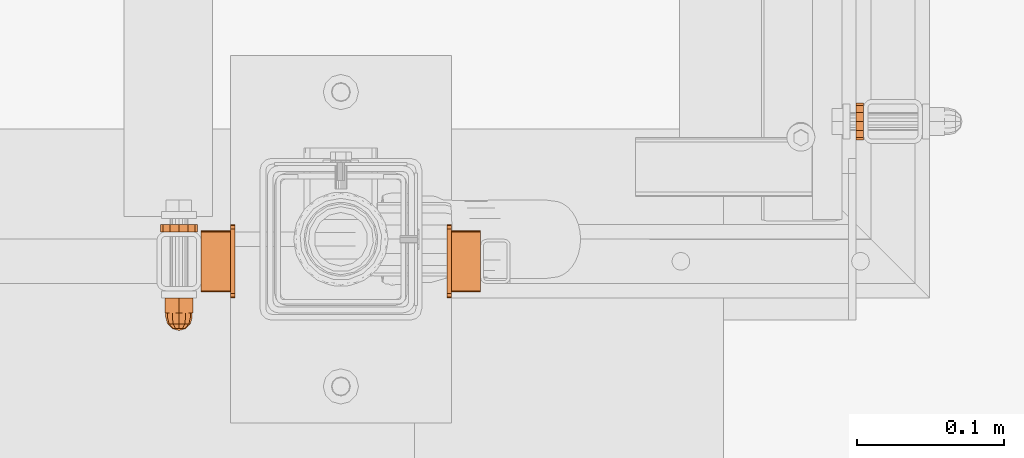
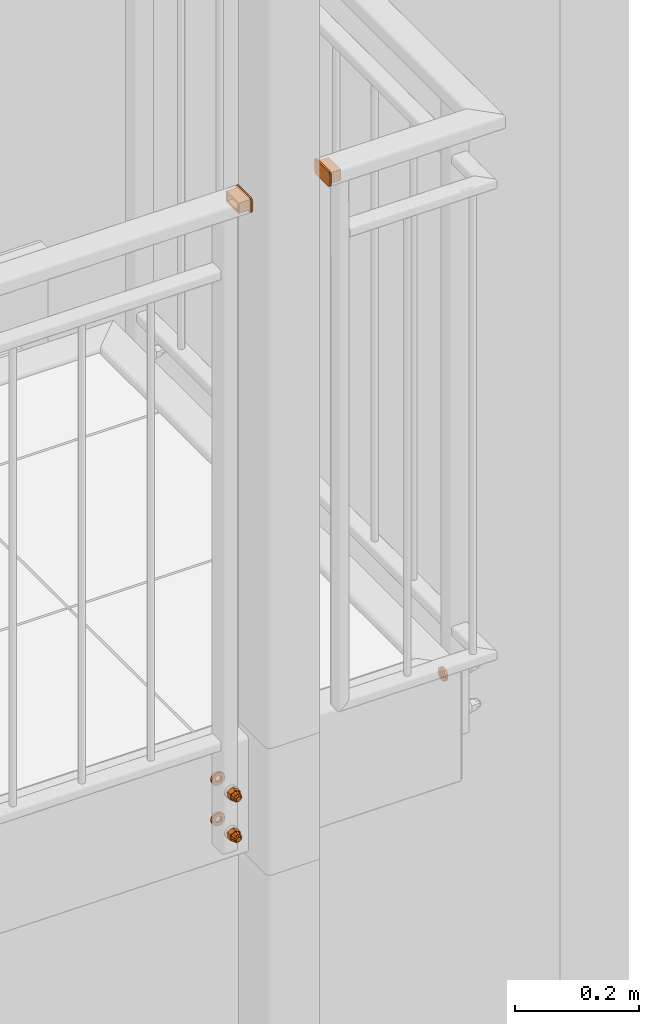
# One storey, part 128 of 162: 7 proxies.
"""IFC2X3 building model written with IfcOpenShell, lengths in millimetres."""

from ifc_helpers import new_model, entity, si_unit, converted_unit, origin_with_axes, place, context, project, spatial, faceted_brep, material, element, save


model = new_model("IFC2X3")

# Units and contexts
model_context = context("Model", 3, precision=1e-09, world=origin_with_axes())
ifc_project = project(units=[si_unit("LENGTHUNIT", "METRE", prefix="MILLI"), si_unit("AREAUNIT", "SQUARE_METRE"), si_unit("VOLUMEUNIT", "CUBIC_METRE"), converted_unit("PLANEANGLEUNIT", "DEGREE", entity("IfcPlaneAngleMeasure", 0.01745329), si_unit("PLANEANGLEUNIT", "RADIAN"), dimensions=[0, 0, 0, 0, 0, 0, 0])], contexts=[model_context])

# Site, building, storey
site_placement = place(None, origin_with_axes())
site = spatial("IfcSite", under=ifc_project, at=site_placement, Name="Hermannstra?e 1a, 60318 Frankfurt", CompositionType="ELEMENT")
building_placement = place(site_placement, origin_with_axes())
building = spatial("IfcBuilding", under=site, at=building_placement, Name="Struktur 1", CompositionType="ELEMENT")
storey_placement = place(building_placement, origin_with_axes())
storey = spatial("IfcBuildingStorey", under=building, at=storey_placement, Name="Default Storey", CompositionType="ELEMENT", Elevation=0.0)

# Proxies
ifc_material = material(Name="Kein")
proxy_1_placement = place(None, origin_with_axes())
element("IfcBuildingElementProxy", 1, at=proxy_1_placement, inside=storey, material=ifc_material, ObjectType="-", context=model_context, shape_type="Brep", body=[
    faceted_brep([(5378.30936482, 1494.609373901, 16330.999), (5378.30936482, 1494.609373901, 16312.999), (5398.30936482, 1494.609373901, 16312.999), (5398.30936482, 1494.609373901, 16330.999), (5398.30936482, 1494.877323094, 16331.999), (5378.30936482, 1494.877323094, 16331.999), (5378.30936482, 1495.609373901, 16332.731050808), (5398.30936482, 1495.609373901, 16332.731050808), (5398.30936482, 1496.609373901, 16332.999), (5378.30936482, 1496.609373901, 16332.999), (5378.30936482, 1494.877323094, 16311.999), (5398.30936482, 1494.877323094, 16311.999), (5378.30936482, 1495.609373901, 16311.266949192), (5398.30936482, 1495.609373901, 16311.266949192), (5378.30936482, 1534.609373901, 16332.999), (5378.30936482, 1535.609373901, 16332.731050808), (5378.30936482, 1536.341424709, 16331.999), (5378.30936482, 1536.609373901, 16330.999), (5378.30936482, 1536.609373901, 16312.999), (5378.30936482, 1536.341424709, 16311.999), (5378.30936482, 1535.609373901, 16311.266949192), (5378.30936482, 1534.609373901, 16310.999), (5378.30936482, 1496.609373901, 16310.999), (5378.30936482, 1498.609373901, 16328.999), (5378.30936482, 1498.609373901, 16314.999), (5378.30936482, 1532.609373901, 16314.999), (5378.30936482, 1532.609373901, 16328.999), (5398.30936482, 1496.609373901, 16310.999), (5398.30936482, 1534.609373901, 16310.999), (5398.30936482, 1535.609373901, 16311.266949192), (5398.30936482, 1536.341424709, 16311.999), (5398.30936482, 1536.609373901, 16312.999), (5398.30936482, 1536.609373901, 16330.999), (5398.30936482, 1536.341424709, 16331.999), (5398.30936482, 1535.609373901, 16332.731050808), (5398.30936482, 1534.609373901, 16332.999), (5398.30936482, 1498.609373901, 16328.999), (5398.30936482, 1498.609373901, 16314.999), (5398.30936482, 1532.609373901, 16314.999), (5398.30936482, 1532.609373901, 16328.999)], [[[0, 1, 2, 3]], [[0, 3, 4, 5]], [[6, 7, 8, 9]], [[5, 4, 7, 6]], [[2, 1, 10, 11]], [[11, 10, 12, 13]], [[5, 6, 9, 14, 15, 16, 17, 18, 19, 20, 21, 22, 12, 10, 1, 0], [23, 24, 25, 26]], [[3, 2, 11, 13, 27, 28, 29, 30, 31, 32, 33, 34, 35, 8, 7, 4]], [[34, 15, 14, 35]], [[14, 9, 8, 35]], [[36, 37, 24, 23]], [[15, 34, 33, 16]], [[13, 12, 22, 27]], [[25, 24, 37, 38]], [[22, 21, 28, 27]], [[28, 21, 20, 29]], [[39, 36, 23, 26]], [[16, 33, 32, 17]], [[29, 20, 19, 30]], [[26, 25, 38, 39]], [[18, 17, 32, 31]], [[30, 19, 18, 31]]]),
    faceted_brep([(5398.30936482, 1496.609373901, 16306.999), (5401.30936482, 1496.609373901, 16306.999), (5401.30936482, 1493.609373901, 16307.802847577), (5398.30936482, 1493.609373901, 16307.802847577), (5401.30936482, 1491.413221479, 16309.999), (5398.30936482, 1491.413221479, 16309.999), (5401.30936482, 1534.609373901, 16306.999), (5398.30936482, 1534.609373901, 16306.999), (5398.30936482, 1537.609373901, 16307.802847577), (5401.30936482, 1537.609373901, 16307.802847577), (5398.30936482, 1539.805526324, 16309.999), (5401.30936482, 1539.805526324, 16309.999), (5398.30936482, 1490.609373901, 16312.999), (5398.30936482, 1490.609373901, 16330.999), (5398.30936482, 1491.413221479, 16333.999), (5398.30936482, 1493.609373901, 16336.195152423), (5398.30936482, 1496.609373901, 16336.999), (5398.30936482, 1534.609373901, 16336.999), (5398.30936482, 1537.609373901, 16336.195152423), (5398.30936482, 1539.805526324, 16333.999), (5398.30936482, 1540.609373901, 16330.999), (5398.30936482, 1540.609373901, 16312.999), (5401.30936482, 1540.609373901, 16312.999), (5401.30936482, 1540.609373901, 16330.999), (5401.30936482, 1539.805526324, 16333.999), (5401.30936482, 1537.609373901, 16336.195152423), (5401.30936482, 1534.609373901, 16336.999), (5401.30936482, 1496.609373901, 16336.999), (5401.30936482, 1493.609373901, 16336.195152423), (5401.30936482, 1491.413221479, 16333.999), (5401.30936482, 1490.609373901, 16330.999), (5401.30936482, 1490.609373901, 16312.999)], [[[0, 1, 2, 3]], [[3, 2, 4, 5]], [[6, 7, 8, 9]], [[9, 8, 10, 11]], [[5, 12, 13, 14, 15, 16, 17, 18, 19, 20, 21, 10, 8, 7, 0, 3]], [[6, 1, 0, 7]], [[11, 22, 23, 24, 25, 26, 27, 28, 29, 30, 31, 4, 2, 1, 6, 9]], [[5, 4, 31, 12]], [[13, 12, 31, 30]], [[11, 10, 21, 22]], [[28, 15, 14, 29]], [[29, 14, 13, 30]], [[15, 28, 27, 16]], [[23, 22, 21, 20]], [[17, 16, 27, 26]], [[23, 20, 19, 24]], [[25, 18, 17, 26]], [[24, 19, 18, 25]]]),
])
proxy_2_placement = place(None, origin_with_axes())
element("IfcBuildingElementProxy", 2, at=proxy_2_placement, inside=storey, material=ifc_material, ObjectType="-", context=model_context, shape_type="Brep", body=[
    faceted_brep([(5568.30936482, 1494.609373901, 16312.999), (5568.30936482, 1494.609373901, 16330.999), (5548.30936482, 1494.609373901, 16330.999), (5548.30936482, 1494.609373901, 16312.999), (5568.30936482, 1494.877323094, 16331.999), (5548.30936482, 1494.877323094, 16331.999), (5548.30936482, 1495.609373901, 16332.731050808), (5568.30936482, 1495.609373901, 16332.731050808), (5568.30936482, 1496.609373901, 16332.999), (5548.30936482, 1496.609373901, 16332.999), (5548.30936482, 1494.877323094, 16311.999), (5568.30936482, 1494.877323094, 16311.999), (5548.30936482, 1495.609373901, 16311.266949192), (5568.30936482, 1495.609373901, 16311.266949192), (5568.30936482, 1496.609373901, 16310.999), (5568.30936482, 1534.609373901, 16310.999), (5568.30936482, 1535.609373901, 16311.266949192), (5568.30936482, 1536.341424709, 16311.999), (5568.30936482, 1536.609373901, 16312.999), (5568.30936482, 1536.609373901, 16330.999), (5568.30936482, 1536.341424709, 16331.999), (5568.30936482, 1535.609373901, 16332.731050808), (5568.30936482, 1534.609373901, 16332.999), (5568.30936482, 1498.609373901, 16328.999), (5568.30936482, 1532.609373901, 16328.999), (5568.30936482, 1532.609373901, 16314.999), (5568.30936482, 1498.609373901, 16314.999), (5548.30936482, 1534.609373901, 16332.999), (5548.30936482, 1535.609373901, 16332.731050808), (5548.30936482, 1536.341424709, 16331.999), (5548.30936482, 1536.609373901, 16330.999), (5548.30936482, 1536.609373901, 16312.999), (5548.30936482, 1536.341424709, 16311.999), (5548.30936482, 1535.609373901, 16311.266949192), (5548.30936482, 1534.609373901, 16310.999), (5548.30936482, 1496.609373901, 16310.999), (5548.30936482, 1498.609373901, 16328.999), (5548.30936482, 1498.609373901, 16314.999), (5548.30936482, 1532.609373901, 16314.999), (5548.30936482, 1532.609373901, 16328.999)], [[[0, 1, 2, 3]], [[2, 1, 4, 5]], [[6, 7, 8, 9]], [[5, 4, 7, 6]], [[0, 3, 10, 11]], [[11, 10, 12, 13]], [[7, 4, 1, 0, 11, 13, 14, 15, 16, 17, 18, 19, 20, 21, 22, 8], [23, 24, 25, 26]], [[3, 2, 5, 6, 9, 27, 28, 29, 30, 31, 32, 33, 34, 35, 12, 10], [36, 37, 38, 39]], [[21, 28, 27, 22]], [[8, 22, 27, 9]], [[37, 36, 23, 26]], [[28, 21, 20, 29]], [[13, 12, 35, 14]], [[26, 25, 38, 37]], [[15, 14, 35, 34]], [[15, 34, 33, 16]], [[36, 39, 24, 23]], [[29, 20, 19, 30]], [[16, 33, 32, 17]], [[25, 24, 39, 38]], [[19, 18, 31, 30]], [[17, 32, 31, 18]]]),
    faceted_brep([(5545.30936482, 1496.609373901, 16306.999), (5548.30936482, 1496.609373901, 16306.999), (5548.30936482, 1493.609373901, 16307.802847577), (5545.30936482, 1493.609373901, 16307.802847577), (5548.30936482, 1491.413221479, 16309.999), (5545.30936482, 1491.413221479, 16309.999), (5548.30936482, 1534.609373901, 16306.999), (5545.30936482, 1534.609373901, 16306.999), (5545.30936482, 1537.609373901, 16307.802847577), (5548.30936482, 1537.609373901, 16307.802847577), (5545.30936482, 1539.805526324, 16309.999), (5548.30936482, 1539.805526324, 16309.999), (5548.30936482, 1490.609373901, 16312.999), (5548.30936482, 1540.609373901, 16312.999), (5548.30936482, 1540.609373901, 16330.999), (5548.30936482, 1539.805526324, 16333.999), (5548.30936482, 1537.609373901, 16336.195152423), (5548.30936482, 1534.609373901, 16336.999), (5548.30936482, 1496.609373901, 16336.999), (5548.30936482, 1493.609373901, 16336.195152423), (5548.30936482, 1491.413221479, 16333.999), (5548.30936482, 1490.609373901, 16330.999), (5545.30936482, 1540.609373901, 16312.999), (5545.30936482, 1490.609373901, 16312.999), (5545.30936482, 1490.609373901, 16330.999), (5545.30936482, 1491.413221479, 16333.999), (5545.30936482, 1493.609373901, 16336.195152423), (5545.30936482, 1496.609373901, 16336.999), (5545.30936482, 1534.609373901, 16336.999), (5545.30936482, 1537.609373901, 16336.195152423), (5545.30936482, 1539.805526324, 16333.999), (5545.30936482, 1540.609373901, 16330.999)], [[[0, 1, 2, 3]], [[3, 2, 4, 5]], [[6, 7, 8, 9]], [[9, 8, 10, 11]], [[12, 4, 2, 1, 6, 9, 11, 13, 14, 15, 16, 17, 18, 19, 20, 21]], [[0, 7, 6, 1]], [[22, 10, 8, 7, 0, 3, 5, 23, 24, 25, 26, 27, 28, 29, 30, 31]], [[5, 4, 12, 23]], [[12, 21, 24, 23]], [[11, 10, 22, 13]], [[19, 26, 25, 20]], [[20, 25, 24, 21]], [[26, 19, 18, 27]], [[22, 31, 14, 13]], [[18, 17, 28, 27]], [[14, 31, 30, 15]], [[16, 29, 28, 17]], [[15, 30, 29, 16]]]),
])
proxy_3_placement = place(None, origin_with_axes())
element("IfcBuildingElementProxy", 3, at=proxy_3_placement, inside=storey, material=ifc_material, ObjectType="-", context=model_context, shape_type="Brep", body=[
    faceted_brep([(5352.484047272, 1535.609373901, 15090.749), (5357.05936482, 1535.609373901, 15086.173682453), (5363.30936482, 1535.609373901, 15084.499), (5369.55936482, 1535.609373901, 15086.173682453), (5374.134682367, 1535.609373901, 15090.749), (5375.80936482, 1535.609373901, 15096.999), (5374.134682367, 1535.609373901, 15103.249), (5369.55936482, 1535.609373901, 15107.824317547), (5363.30936482, 1535.609373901, 15109.499), (5357.05936482, 1535.609373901, 15107.824317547), (5352.484047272, 1535.609373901, 15103.249), (5350.80936482, 1535.609373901, 15096.999), (5363.30936482, 1535.609373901, 15090.999), (5360.30936482, 1535.609373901, 15091.802847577), (5358.113212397, 1535.609373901, 15093.999), (5357.30936482, 1535.609373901, 15096.999), (5358.113212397, 1535.609373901, 15099.999), (5360.30936482, 1535.609373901, 15102.195152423), (5363.30936482, 1535.609373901, 15102.999), (5366.30936482, 1535.609373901, 15102.195152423), (5368.505517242, 1535.609373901, 15099.999), (5369.30936482, 1535.609373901, 15096.999), (5368.505517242, 1535.609373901, 15093.999), (5366.30936482, 1535.609373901, 15091.802847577), (5352.484047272, 1540.609373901, 15090.749), (5357.05936482, 1540.609373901, 15086.173682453), (5350.80936482, 1540.609373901, 15096.999), (5352.484047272, 1540.609373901, 15103.249), (5357.05936482, 1540.609373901, 15107.824317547), (5363.30936482, 1540.609373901, 15109.499), (5369.55936482, 1540.609373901, 15107.824317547), (5374.134682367, 1540.609373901, 15103.249), (5375.80936482, 1540.609373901, 15096.999), (5374.134682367, 1540.609373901, 15090.749), (5369.55936482, 1540.609373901, 15086.173682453), (5363.30936482, 1540.609373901, 15084.499), (5358.113212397, 1540.609373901, 15099.999), (5357.30936482, 1540.609373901, 15096.999), (5358.113212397, 1540.609373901, 15093.999), (5360.30936482, 1540.609373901, 15091.802847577), (5363.30936482, 1540.609373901, 15090.999), (5366.30936482, 1540.609373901, 15091.802847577), (5368.505517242, 1540.609373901, 15093.999), (5369.30936482, 1540.609373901, 15096.999), (5368.505517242, 1540.609373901, 15099.999), (5366.30936482, 1540.609373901, 15102.195152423), (5363.30936482, 1540.609373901, 15102.999), (5360.30936482, 1540.609373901, 15102.195152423)], [[[0, 1, 2, 3, 4, 5, 6, 7, 8, 9, 10, 11], [12, 13, 14, 15, 16, 17, 18, 19, 20, 21, 22, 23]], [[0, 24, 25, 1]], [[24, 26, 27, 28, 29, 30, 31, 32, 33, 34, 35, 25], [36, 37, 38, 39, 40, 41, 42, 43, 44, 45, 46, 47]], [[38, 14, 13, 39]], [[24, 0, 11, 26]], [[14, 38, 37, 15]], [[39, 13, 12, 40]], [[1, 25, 35, 2]], [[26, 11, 10, 27]], [[15, 37, 36, 16]], [[40, 12, 23, 41]], [[2, 35, 34, 3]], [[27, 10, 9, 28]], [[16, 36, 47, 17]], [[22, 42, 41, 23]], [[3, 34, 33, 4]], [[42, 22, 21, 43]], [[28, 9, 8, 29]], [[17, 47, 46, 18]], [[20, 44, 43, 21]], [[4, 33, 32, 5]], [[45, 19, 18, 46]], [[44, 20, 19, 45]], [[29, 8, 7, 30]], [[5, 32, 31, 6]], [[30, 7, 6, 31]]]),
])
proxy_4_placement = place(None, origin_with_axes())
element("IfcBuildingElementProxy", 4, at=proxy_4_placement, inside=storey, material=ifc_material, ObjectType="-", context=model_context, shape_type="Brep", body=[
    faceted_brep([(5352.484047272, 1535.609373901, 15170.749), (5357.05936482, 1535.609373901, 15166.173682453), (5363.30936482, 1535.609373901, 15164.499), (5369.55936482, 1535.609373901, 15166.173682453), (5374.134682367, 1535.609373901, 15170.749), (5375.80936482, 1535.609373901, 15176.999), (5374.134682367, 1535.609373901, 15183.249), (5369.55936482, 1535.609373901, 15187.824317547), (5363.30936482, 1535.609373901, 15189.499), (5357.05936482, 1535.609373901, 15187.824317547), (5352.484047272, 1535.609373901, 15183.249), (5350.80936482, 1535.609373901, 15176.999), (5363.30936482, 1535.609373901, 15170.999), (5360.30936482, 1535.609373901, 15171.802847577), (5358.113212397, 1535.609373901, 15173.999), (5357.30936482, 1535.609373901, 15176.999), (5358.113212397, 1535.609373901, 15179.999), (5360.30936482, 1535.609373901, 15182.195152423), (5363.30936482, 1535.609373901, 15182.999), (5366.30936482, 1535.609373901, 15182.195152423), (5368.505517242, 1535.609373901, 15179.999), (5369.30936482, 1535.609373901, 15176.999), (5368.505517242, 1535.609373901, 15173.999), (5366.30936482, 1535.609373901, 15171.802847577), (5352.484047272, 1540.609373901, 15170.749), (5357.05936482, 1540.609373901, 15166.173682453), (5350.80936482, 1540.609373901, 15176.999), (5352.484047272, 1540.609373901, 15183.249), (5357.05936482, 1540.609373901, 15187.824317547), (5363.30936482, 1540.609373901, 15189.499), (5369.55936482, 1540.609373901, 15187.824317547), (5374.134682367, 1540.609373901, 15183.249), (5375.80936482, 1540.609373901, 15176.999), (5374.134682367, 1540.609373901, 15170.749), (5369.55936482, 1540.609373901, 15166.173682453), (5363.30936482, 1540.609373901, 15164.499), (5358.113212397, 1540.609373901, 15179.999), (5357.30936482, 1540.609373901, 15176.999), (5358.113212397, 1540.609373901, 15173.999), (5360.30936482, 1540.609373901, 15171.802847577), (5363.30936482, 1540.609373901, 15170.999), (5366.30936482, 1540.609373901, 15171.802847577), (5368.505517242, 1540.609373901, 15173.999), (5369.30936482, 1540.609373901, 15176.999), (5368.505517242, 1540.609373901, 15179.999), (5366.30936482, 1540.609373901, 15182.195152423), (5363.30936482, 1540.609373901, 15182.999), (5360.30936482, 1540.609373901, 15182.195152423)], [[[0, 1, 2, 3, 4, 5, 6, 7, 8, 9, 10, 11], [12, 13, 14, 15, 16, 17, 18, 19, 20, 21, 22, 23]], [[0, 24, 25, 1]], [[24, 26, 27, 28, 29, 30, 31, 32, 33, 34, 35, 25], [36, 37, 38, 39, 40, 41, 42, 43, 44, 45, 46, 47]], [[38, 14, 13, 39]], [[24, 0, 11, 26]], [[14, 38, 37, 15]], [[39, 13, 12, 40]], [[1, 25, 35, 2]], [[26, 11, 10, 27]], [[15, 37, 36, 16]], [[40, 12, 23, 41]], [[2, 35, 34, 3]], [[27, 10, 9, 28]], [[16, 36, 47, 17]], [[22, 42, 41, 23]], [[3, 34, 33, 4]], [[42, 22, 21, 43]], [[28, 9, 8, 29]], [[17, 47, 46, 18]], [[20, 44, 43, 21]], [[4, 33, 32, 5]], [[45, 19, 18, 46]], [[44, 20, 19, 45]], [[29, 8, 7, 30]], [[5, 32, 31, 6]], [[30, 7, 6, 31]]]),
])
proxy_5_placement = place(None, origin_with_axes())
element("IfcBuildingElementProxy", 5, at=proxy_5_placement, inside=storey, material=ifc_material, ObjectType="-", context=model_context, shape_type="Brep", body=[
    faceted_brep([(5357.30936482, 1490.609373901, 15176.999), (5357.30936482, 1480.609373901, 15176.999), (5358.113212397, 1480.609373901, 15173.999), (5358.113212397, 1490.609373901, 15173.999), (5360.30936482, 1480.609373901, 15171.802847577), (5360.30936482, 1490.609373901, 15171.802847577), (5358.113212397, 1490.609373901, 15179.999), (5358.113212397, 1480.609373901, 15179.999), (5353.829495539, 1490.609373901, 15182.472205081), (5363.30936482, 1490.609373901, 15187.945410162), (5372.7892341, 1490.609373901, 15182.472205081), (5372.7892341, 1490.609373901, 15171.525794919), (5363.30936482, 1490.609373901, 15166.052589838), (5353.829495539, 1490.609373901, 15171.525794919), (5360.30936482, 1490.609373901, 15182.195152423), (5363.30936482, 1490.609373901, 15170.999), (5366.30936482, 1490.609373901, 15171.802847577), (5368.505517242, 1490.609373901, 15173.999), (5369.30936482, 1490.609373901, 15176.999), (5368.505517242, 1490.609373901, 15179.999), (5366.30936482, 1490.609373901, 15182.195152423), (5363.30936482, 1490.609373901, 15182.999), (5363.30936482, 1480.609373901, 15187.945410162), (5353.829495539, 1480.609373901, 15182.472205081), (5353.829495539, 1480.609373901, 15171.525794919), (5363.30936482, 1480.609373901, 15166.052589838), (5372.7892341, 1480.609373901, 15171.525794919), (5372.7892341, 1480.609373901, 15182.472205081), (5360.30936482, 1480.609373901, 15182.195152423), (5363.30936482, 1480.609373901, 15182.999), (5366.30936482, 1480.609373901, 15182.195152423), (5368.505517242, 1480.609373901, 15179.999), (5369.30936482, 1480.609373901, 15176.999), (5368.505517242, 1480.609373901, 15173.999), (5366.30936482, 1480.609373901, 15171.802847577), (5363.30936482, 1480.609373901, 15170.999)], [[[0, 1, 2, 3]], [[3, 2, 4, 5]], [[1, 0, 6, 7]], [[8, 9, 10, 11, 12, 13], [14, 6, 0, 3, 5, 15, 16, 17, 18, 19, 20, 21]], [[22, 23, 24, 25, 26, 27], [1, 7, 28, 29, 30, 31, 32, 33, 34, 35, 4, 2]], [[7, 6, 14, 28]], [[24, 23, 8, 13]], [[5, 4, 35, 15]], [[13, 12, 25, 24]], [[28, 14, 21, 29]], [[23, 22, 9, 8]], [[15, 35, 34, 16]], [[12, 11, 26, 25]], [[29, 21, 20, 30]], [[22, 27, 10, 9]], [[16, 34, 33, 17]], [[27, 26, 11, 10]], [[30, 20, 19, 31]], [[17, 33, 32, 18]], [[31, 19, 18, 32]]]),
    faceted_brep([(5363.30936482, 1480.609373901, 15185.999), (5363.30936482, 1477.609373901, 15185.999), (5367.80936482, 1477.609373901, 15184.793228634), (5367.80936482, 1480.609373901, 15184.793228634), (5358.80936482, 1480.609373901, 15184.793228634), (5358.80936482, 1477.609373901, 15184.793228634), (5355.515136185, 1477.609373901, 15172.499), (5358.80936482, 1477.609373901, 15169.204771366), (5363.30936482, 1477.609373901, 15167.999), (5367.80936482, 1477.609373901, 15169.204771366), (5371.103593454, 1477.609373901, 15172.499), (5372.30936482, 1477.609373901, 15176.999), (5371.103593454, 1477.609373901, 15181.499), (5355.515136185, 1477.609373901, 15181.499), (5354.30936482, 1477.609373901, 15176.999), (5371.103593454, 1480.609373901, 15172.499), (5367.80936482, 1480.609373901, 15169.204771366), (5363.30936482, 1480.609373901, 15167.999), (5358.80936482, 1480.609373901, 15169.204771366), (5355.515136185, 1480.609373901, 15172.499), (5354.30936482, 1480.609373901, 15176.999), (5355.515136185, 1480.609373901, 15181.499), (5371.103593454, 1480.609373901, 15181.499), (5372.30936482, 1480.609373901, 15176.999)], [[[0, 1, 2, 3]], [[1, 0, 4, 5]], [[6, 7, 8, 9, 10, 11, 12, 2, 1, 5, 13, 14]], [[15, 16, 17, 18, 19, 20, 21, 4, 0, 3, 22, 23]], [[3, 2, 12, 22]], [[5, 4, 21, 13]], [[22, 12, 11, 23]], [[13, 21, 20, 14]], [[7, 18, 17, 8]], [[19, 6, 14, 20]], [[18, 7, 6, 19]], [[23, 11, 10, 15]], [[8, 17, 16, 9]], [[15, 10, 9, 16]]]),
    faceted_brep([(5355.515136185, 1477.609373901, 15181.499), (5356.55936482, 1473.109373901, 15180.896114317), (5359.412250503, 1473.109373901, 15183.749), (5358.80936482, 1477.609373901, 15184.793228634), (5371.103593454, 1477.609373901, 15172.499), (5367.80936482, 1477.609373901, 15169.204771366), (5363.30936482, 1477.609373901, 15167.999), (5358.80936482, 1477.609373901, 15169.204771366), (5355.515136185, 1477.609373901, 15172.499), (5354.30936482, 1477.609373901, 15176.999), (5363.30936482, 1477.609373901, 15185.999), (5367.80936482, 1477.609373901, 15184.793228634), (5371.103593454, 1477.609373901, 15181.499), (5372.30936482, 1477.609373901, 15176.999), (5363.30936482, 1473.109373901, 15184.793228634), (5355.515136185, 1473.109373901, 15176.999), (5358.80936482, 1469.815145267, 15176.999), (5359.412250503, 1469.815145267, 15179.249), (5367.206479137, 1473.109373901, 15183.749), (5361.05936482, 1469.815145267, 15180.896114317), (5356.55936482, 1473.109373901, 15173.101885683), (5359.412250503, 1469.815145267, 15174.749), (5363.30936482, 1469.815145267, 15181.499), (5363.30936482, 1468.609373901, 15176.999), (5359.412250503, 1473.109373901, 15170.249), (5361.05936482, 1469.815145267, 15173.101885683), (5363.30936482, 1473.109373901, 15169.204771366), (5370.05936482, 1473.109373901, 15180.896114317), (5365.55936482, 1469.815145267, 15180.896114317), (5363.30936482, 1469.815145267, 15172.499), (5367.206479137, 1473.109373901, 15170.249), (5365.55936482, 1469.815145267, 15173.101885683), (5371.103593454, 1473.109373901, 15176.999), (5367.206479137, 1469.815145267, 15179.249), (5370.05936482, 1473.109373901, 15173.101885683), (5367.206479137, 1469.815145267, 15174.749), (5367.80936482, 1469.815145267, 15176.999)], [[[0, 1, 2, 3]], [[4, 5, 6, 7, 8, 9, 0, 3, 10, 11, 12, 13]], [[3, 2, 14, 10]], [[15, 16, 17, 1]], [[1, 0, 9, 15]], [[10, 14, 18, 11]], [[1, 17, 19, 2]], [[16, 15, 20, 21]], [[2, 19, 22, 14]], [[23, 17, 16]], [[24, 25, 21, 20]], [[23, 16, 21]], [[24, 7, 6, 26]], [[20, 8, 7, 24]], [[15, 9, 8, 20]], [[11, 18, 27, 12]], [[14, 22, 28, 18]], [[23, 19, 17]], [[26, 29, 25, 24]], [[23, 21, 25]], [[23, 22, 19]], [[26, 6, 5, 30]], [[29, 26, 30, 31]], [[23, 25, 29]], [[12, 27, 32, 13]], [[18, 28, 33, 27]], [[23, 28, 22]], [[23, 29, 31]], [[23, 33, 28]], [[30, 5, 4, 34]], [[31, 30, 34, 35]], [[23, 31, 35]], [[13, 32, 34, 4]], [[27, 33, 36, 32]], [[23, 36, 33]], [[23, 35, 36]], [[35, 34, 32, 36]]]),
])
proxy_6_placement = place(None, origin_with_axes())
element("IfcBuildingElementProxy", 6, at=proxy_6_placement, inside=storey, material=ifc_material, ObjectType="-", context=model_context, shape_type="Brep", body=[
    faceted_brep([(5357.30936482, 1490.609373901, 15096.999), (5357.30936482, 1480.609373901, 15096.999), (5358.113212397, 1480.609373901, 15093.999), (5358.113212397, 1490.609373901, 15093.999), (5360.30936482, 1480.609373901, 15091.802847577), (5360.30936482, 1490.609373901, 15091.802847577), (5358.113212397, 1490.609373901, 15099.999), (5358.113212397, 1480.609373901, 15099.999), (5353.829495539, 1490.609373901, 15102.472205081), (5363.30936482, 1490.609373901, 15107.945410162), (5372.7892341, 1490.609373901, 15102.472205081), (5372.7892341, 1490.609373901, 15091.525794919), (5363.30936482, 1490.609373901, 15086.052589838), (5353.829495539, 1490.609373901, 15091.525794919), (5360.30936482, 1490.609373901, 15102.195152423), (5363.30936482, 1490.609373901, 15090.999), (5366.30936482, 1490.609373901, 15091.802847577), (5368.505517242, 1490.609373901, 15093.999), (5369.30936482, 1490.609373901, 15096.999), (5368.505517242, 1490.609373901, 15099.999), (5366.30936482, 1490.609373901, 15102.195152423), (5363.30936482, 1490.609373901, 15102.999), (5363.30936482, 1480.609373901, 15107.945410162), (5353.829495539, 1480.609373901, 15102.472205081), (5353.829495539, 1480.609373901, 15091.525794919), (5363.30936482, 1480.609373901, 15086.052589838), (5372.7892341, 1480.609373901, 15091.525794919), (5372.7892341, 1480.609373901, 15102.472205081), (5360.30936482, 1480.609373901, 15102.195152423), (5363.30936482, 1480.609373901, 15102.999), (5366.30936482, 1480.609373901, 15102.195152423), (5368.505517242, 1480.609373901, 15099.999), (5369.30936482, 1480.609373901, 15096.999), (5368.505517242, 1480.609373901, 15093.999), (5366.30936482, 1480.609373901, 15091.802847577), (5363.30936482, 1480.609373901, 15090.999)], [[[0, 1, 2, 3]], [[3, 2, 4, 5]], [[1, 0, 6, 7]], [[8, 9, 10, 11, 12, 13], [14, 6, 0, 3, 5, 15, 16, 17, 18, 19, 20, 21]], [[22, 23, 24, 25, 26, 27], [1, 7, 28, 29, 30, 31, 32, 33, 34, 35, 4, 2]], [[7, 6, 14, 28]], [[24, 23, 8, 13]], [[5, 4, 35, 15]], [[13, 12, 25, 24]], [[28, 14, 21, 29]], [[23, 22, 9, 8]], [[15, 35, 34, 16]], [[12, 11, 26, 25]], [[29, 21, 20, 30]], [[22, 27, 10, 9]], [[16, 34, 33, 17]], [[27, 26, 11, 10]], [[30, 20, 19, 31]], [[17, 33, 32, 18]], [[31, 19, 18, 32]]]),
    faceted_brep([(5363.30936482, 1480.609373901, 15105.999), (5363.30936482, 1477.609373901, 15105.999), (5367.80936482, 1477.609373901, 15104.793228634), (5367.80936482, 1480.609373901, 15104.793228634), (5358.80936482, 1480.609373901, 15104.793228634), (5358.80936482, 1477.609373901, 15104.793228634), (5355.515136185, 1477.609373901, 15092.499), (5358.80936482, 1477.609373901, 15089.204771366), (5363.30936482, 1477.609373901, 15087.999), (5367.80936482, 1477.609373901, 15089.204771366), (5371.103593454, 1477.609373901, 15092.499), (5372.30936482, 1477.609373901, 15096.999), (5371.103593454, 1477.609373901, 15101.499), (5355.515136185, 1477.609373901, 15101.499), (5354.30936482, 1477.609373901, 15096.999), (5371.103593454, 1480.609373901, 15092.499), (5367.80936482, 1480.609373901, 15089.204771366), (5363.30936482, 1480.609373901, 15087.999), (5358.80936482, 1480.609373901, 15089.204771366), (5355.515136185, 1480.609373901, 15092.499), (5354.30936482, 1480.609373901, 15096.999), (5355.515136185, 1480.609373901, 15101.499), (5371.103593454, 1480.609373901, 15101.499), (5372.30936482, 1480.609373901, 15096.999)], [[[0, 1, 2, 3]], [[1, 0, 4, 5]], [[6, 7, 8, 9, 10, 11, 12, 2, 1, 5, 13, 14]], [[15, 16, 17, 18, 19, 20, 21, 4, 0, 3, 22, 23]], [[3, 2, 12, 22]], [[5, 4, 21, 13]], [[22, 12, 11, 23]], [[13, 21, 20, 14]], [[7, 18, 17, 8]], [[19, 6, 14, 20]], [[18, 7, 6, 19]], [[23, 11, 10, 15]], [[8, 17, 16, 9]], [[15, 10, 9, 16]]]),
    faceted_brep([(5355.515136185, 1477.609373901, 15101.499), (5356.55936482, 1473.109373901, 15100.896114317), (5359.412250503, 1473.109373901, 15103.749), (5358.80936482, 1477.609373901, 15104.793228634), (5371.103593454, 1477.609373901, 15092.499), (5367.80936482, 1477.609373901, 15089.204771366), (5363.30936482, 1477.609373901, 15087.999), (5358.80936482, 1477.609373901, 15089.204771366), (5355.515136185, 1477.609373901, 15092.499), (5354.30936482, 1477.609373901, 15096.999), (5363.30936482, 1477.609373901, 15105.999), (5367.80936482, 1477.609373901, 15104.793228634), (5371.103593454, 1477.609373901, 15101.499), (5372.30936482, 1477.609373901, 15096.999), (5363.30936482, 1473.109373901, 15104.793228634), (5355.515136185, 1473.109373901, 15096.999), (5358.80936482, 1469.815145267, 15096.999), (5359.412250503, 1469.815145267, 15099.249), (5367.206479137, 1473.109373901, 15103.749), (5361.05936482, 1469.815145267, 15100.896114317), (5356.55936482, 1473.109373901, 15093.101885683), (5359.412250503, 1469.815145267, 15094.749), (5363.30936482, 1469.815145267, 15101.499), (5363.30936482, 1468.609373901, 15096.999), (5359.412250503, 1473.109373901, 15090.249), (5361.05936482, 1469.815145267, 15093.101885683), (5363.30936482, 1473.109373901, 15089.204771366), (5370.05936482, 1473.109373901, 15100.896114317), (5365.55936482, 1469.815145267, 15100.896114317), (5363.30936482, 1469.815145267, 15092.499), (5367.206479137, 1473.109373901, 15090.249), (5365.55936482, 1469.815145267, 15093.101885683), (5371.103593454, 1473.109373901, 15096.999), (5367.206479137, 1469.815145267, 15099.249), (5370.05936482, 1473.109373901, 15093.101885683), (5367.206479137, 1469.815145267, 15094.749), (5367.80936482, 1469.815145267, 15096.999)], [[[0, 1, 2, 3]], [[4, 5, 6, 7, 8, 9, 0, 3, 10, 11, 12, 13]], [[3, 2, 14, 10]], [[15, 16, 17, 1]], [[1, 0, 9, 15]], [[10, 14, 18, 11]], [[1, 17, 19, 2]], [[16, 15, 20, 21]], [[2, 19, 22, 14]], [[23, 17, 16]], [[24, 25, 21, 20]], [[23, 16, 21]], [[24, 7, 6, 26]], [[20, 8, 7, 24]], [[15, 9, 8, 20]], [[11, 18, 27, 12]], [[14, 22, 28, 18]], [[23, 19, 17]], [[26, 29, 25, 24]], [[23, 21, 25]], [[23, 22, 19]], [[26, 6, 5, 30]], [[29, 26, 30, 31]], [[23, 25, 29]], [[12, 27, 32, 13]], [[18, 28, 33, 27]], [[23, 28, 22]], [[23, 29, 31]], [[23, 33, 28]], [[30, 5, 4, 34]], [[31, 30, 34, 35]], [[23, 31, 35]], [[13, 32, 34, 4]], [[27, 33, 36, 32]], [[23, 36, 33]], [[23, 35, 36]], [[35, 34, 32, 36]]]),
])
proxy_7_placement = place(None, origin_with_axes())
element("IfcBuildingElementProxy", 7, at=proxy_7_placement, inside=storey, material=ifc_material, ObjectType="-", context=model_context, shape_type="Brep", body=[
    faceted_brep([(5828.30936482, 1599.784056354, 15170.749), (5828.30936482, 1604.359373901, 15166.173682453), (5828.30936482, 1610.609373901, 15164.499), (5828.30936482, 1616.859373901, 15166.173682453), (5828.30936482, 1621.434691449, 15170.749), (5828.30936482, 1623.109373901, 15176.999), (5828.30936482, 1621.434691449, 15183.249), (5828.30936482, 1616.859373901, 15187.824317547), (5828.30936482, 1610.609373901, 15189.499), (5828.30936482, 1604.359373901, 15187.824317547), (5828.30936482, 1599.784056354, 15183.249), (5828.30936482, 1598.109373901, 15176.999), (5828.30936482, 1610.609373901, 15170.999), (5828.30936482, 1607.609373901, 15171.802847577), (5828.30936482, 1605.413221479, 15173.999), (5828.30936482, 1604.609373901, 15176.999), (5828.30936482, 1605.413221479, 15179.999), (5828.30936482, 1607.609373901, 15182.195152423), (5828.30936482, 1610.609373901, 15182.999), (5828.30936482, 1613.609373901, 15182.195152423), (5828.30936482, 1615.805526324, 15179.999), (5828.30936482, 1616.609373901, 15176.999), (5828.30936482, 1615.805526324, 15173.999), (5828.30936482, 1613.609373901, 15171.802847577), (5823.30936482, 1599.784056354, 15170.749), (5823.30936482, 1604.359373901, 15166.173682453), (5823.30936482, 1598.109373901, 15176.999), (5823.30936482, 1599.784056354, 15183.249), (5823.30936482, 1604.359373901, 15187.824317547), (5823.30936482, 1610.609373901, 15189.499), (5823.30936482, 1616.859373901, 15187.824317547), (5823.30936482, 1621.434691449, 15183.249), (5823.30936482, 1623.109373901, 15176.999), (5823.30936482, 1621.434691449, 15170.749), (5823.30936482, 1616.859373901, 15166.173682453), (5823.30936482, 1610.609373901, 15164.499), (5823.30936482, 1605.413221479, 15179.999), (5823.30936482, 1604.609373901, 15176.999), (5823.30936482, 1605.413221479, 15173.999), (5823.30936482, 1607.609373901, 15171.802847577), (5823.30936482, 1610.609373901, 15170.999), (5823.30936482, 1613.609373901, 15171.802847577), (5823.30936482, 1615.805526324, 15173.999), (5823.30936482, 1616.609373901, 15176.999), (5823.30936482, 1615.805526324, 15179.999), (5823.30936482, 1613.609373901, 15182.195152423), (5823.30936482, 1610.609373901, 15182.999), (5823.30936482, 1607.609373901, 15182.195152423)], [[[0, 1, 2, 3, 4, 5, 6, 7, 8, 9, 10, 11], [12, 13, 14, 15, 16, 17, 18, 19, 20, 21, 22, 23]], [[0, 24, 25, 1]], [[24, 26, 27, 28, 29, 30, 31, 32, 33, 34, 35, 25], [36, 37, 38, 39, 40, 41, 42, 43, 44, 45, 46, 47]], [[38, 14, 13, 39]], [[24, 0, 11, 26]], [[14, 38, 37, 15]], [[39, 13, 12, 40]], [[1, 25, 35, 2]], [[26, 11, 10, 27]], [[15, 37, 36, 16]], [[40, 12, 23, 41]], [[2, 35, 34, 3]], [[27, 10, 9, 28]], [[16, 36, 47, 17]], [[22, 42, 41, 23]], [[3, 34, 33, 4]], [[42, 22, 21, 43]], [[28, 9, 8, 29]], [[17, 47, 46, 18]], [[20, 44, 43, 21]], [[4, 33, 32, 5]], [[45, 19, 18, 46]], [[44, 20, 19, 45]], [[29, 8, 7, 30]], [[5, 32, 31, 6]], [[30, 7, 6, 31]]]),
])

save(model, "model.ifc")
